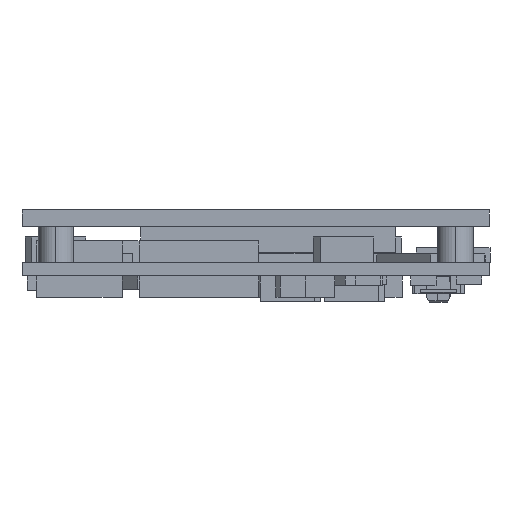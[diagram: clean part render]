
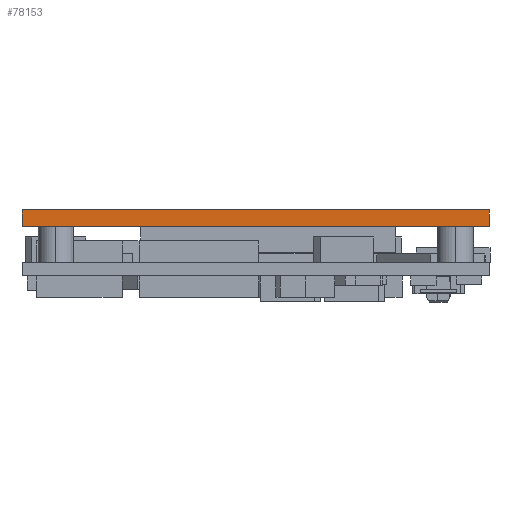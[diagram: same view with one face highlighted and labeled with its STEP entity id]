
A CAD part, left-side view. The second image highlights one B-rep face of the part: STEP entity #78153.
In plain terms, the highlighted planar face has unit normal (-1, 0, 0) as drawn and (1, 0, 0) by its records, which use the part's own axes.
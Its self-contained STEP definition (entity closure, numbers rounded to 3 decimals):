
#446 = EDGE_CURVE ( 'NONE', #49369, #13954, #59809, .T. ) ;
#7041 = DIRECTION ( 'NONE',  ( 0., 1., 0. ) ) ;
#11155 = VECTOR ( 'NONE', #84985, 1000. ) ;
#12712 = CARTESIAN_POINT ( 'NONE',  ( 42., 0., -2. ) ) ;
#13954 = VERTEX_POINT ( 'NONE', #61592 ) ;
#14838 = LINE ( 'NONE', #12712, #11155 ) ;
#18209 = ORIENTED_EDGE ( 'NONE', *, *, #96149, .F. ) ;
#19508 = CARTESIAN_POINT ( 'NONE',  ( 42., 55., 0. ) ) ;
#20601 = CARTESIAN_POINT ( 'NONE',  ( 42., 55., -2. ) ) ;
#22647 = EDGE_CURVE ( 'NONE', #38948, #24757, #14838, .T. ) ;
#24757 = VERTEX_POINT ( 'NONE', #25539 ) ;
#25539 = CARTESIAN_POINT ( 'NONE',  ( 42., 0., 0. ) ) ;
#31797 = VECTOR ( 'NONE', #41150, 1000. ) ;
#33703 = FACE_OUTER_BOUND ( 'NONE', #45054, .T. ) ;
#33866 = CARTESIAN_POINT ( 'NONE',  ( 42., 55., -2. ) ) ;
#35388 = ORIENTED_EDGE ( 'NONE', *, *, #44372, .T. ) ;
#38067 = DIRECTION ( 'NONE',  ( 0., 1., 0. ) ) ;
#38502 = LINE ( 'NONE', #114838, #99099 ) ;
#38948 = VERTEX_POINT ( 'NONE', #79526 ) ;
#41150 = DIRECTION ( 'NONE',  ( 0., 0., 1. ) ) ;
#44372 = EDGE_CURVE ( 'NONE', #38948, #49369, #38502, .T. ) ;
#45054 = EDGE_LOOP ( 'NONE', ( #18209, #112275, #35388, #122770 ) ) ;
#49369 = VERTEX_POINT ( 'NONE', #111217 ) ;
#50059 = AXIS2_PLACEMENT_3D ( 'NONE', #33866, #83364, #7041 ) ;
#56526 = PLANE ( 'NONE',  #50059 ) ;
#59809 = LINE ( 'NONE', #20601, #31797 ) ;
#61592 = CARTESIAN_POINT ( 'NONE',  ( 42., 55., 0. ) ) ;
#67605 = VECTOR ( 'NONE', #38067, 1000. ) ;
#78153 = ADVANCED_FACE ( 'NONE', ( #33703 ), #56526, .T. ) ;
#79526 = CARTESIAN_POINT ( 'NONE',  ( 42., 0., -2. ) ) ;
#83364 = DIRECTION ( 'NONE',  ( 1., 0., 0. ) ) ;
#84985 = DIRECTION ( 'NONE',  ( 0., 0., 1. ) ) ;
#96149 = EDGE_CURVE ( 'NONE', #24757, #13954, #112436, .T. ) ;
#99099 = VECTOR ( 'NONE', #127299, 1000. ) ;
#111217 = CARTESIAN_POINT ( 'NONE',  ( 42., 55., -2. ) ) ;
#112275 = ORIENTED_EDGE ( 'NONE', *, *, #22647, .F. ) ;
#112436 = LINE ( 'NONE', #19508, #67605 ) ;
#114838 = CARTESIAN_POINT ( 'NONE',  ( 42., 55., -2. ) ) ;
#122770 = ORIENTED_EDGE ( 'NONE', *, *, #446, .T. ) ;
#127299 = DIRECTION ( 'NONE',  ( 0., 1., 0. ) ) ;
